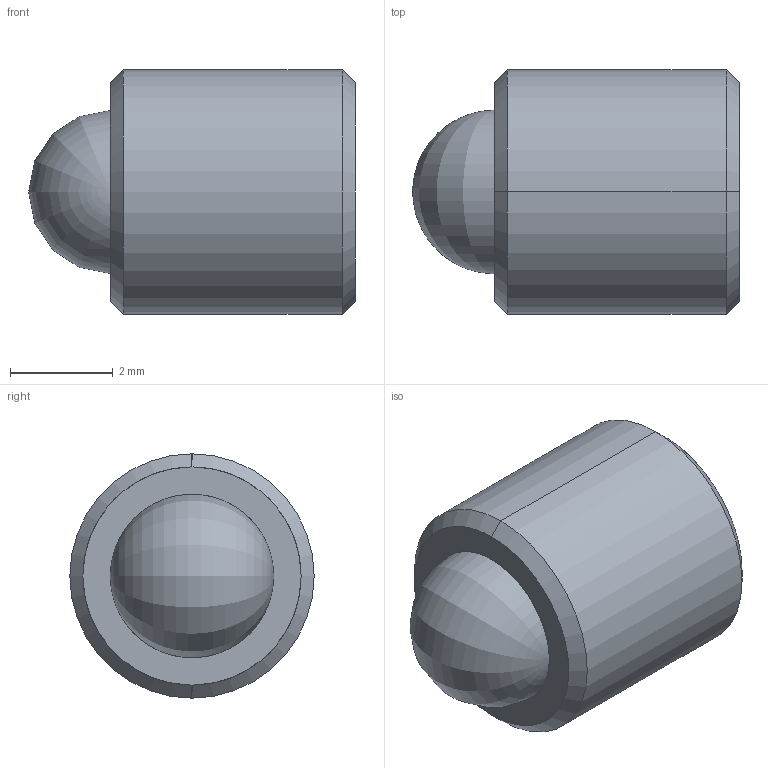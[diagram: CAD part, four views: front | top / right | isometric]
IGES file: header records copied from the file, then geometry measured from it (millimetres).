
Start section: SolidWorks IGES file using analytic representation for surfaces
Global section: file name: C:\Users\workpc\Desktop\KMA Solidworks\TS187-100-250.IGS; native system: SolidWorks 2013; preprocessor: SolidWorks 2013; author: workpc; date: 130211.105257; units: inch
Bounding box: 6.35 x 4.75 x 4.75 mm (x, y, z)
Surface area: 165.1 mm2 (no closed solid volume)
Topology: 0 solids, 0 shells, 20 faces, 204 edges, 200 vertices
Faces by surface type: revolution 10, bspline 10
